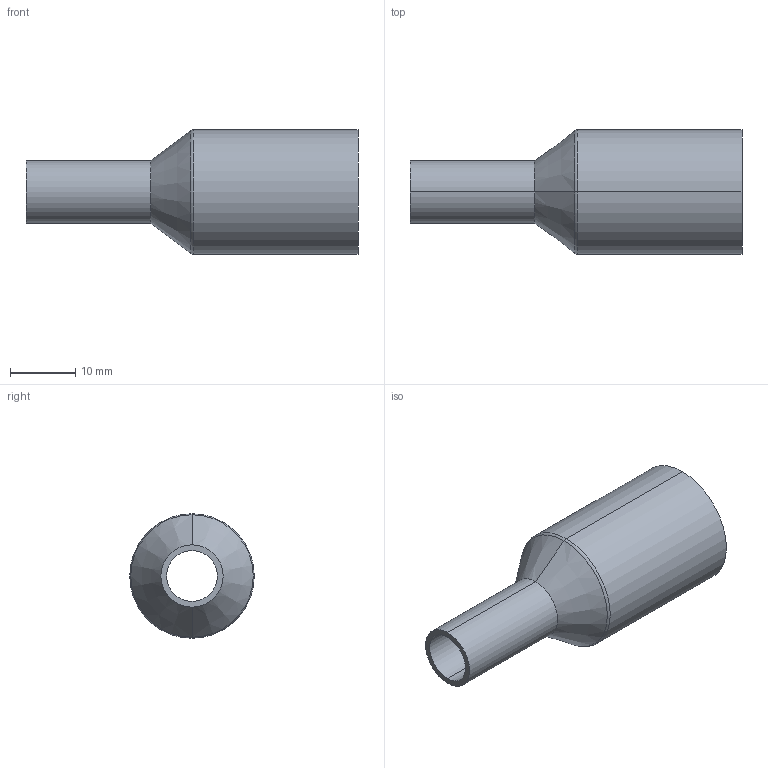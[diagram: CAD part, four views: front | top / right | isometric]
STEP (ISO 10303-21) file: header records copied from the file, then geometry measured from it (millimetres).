
FILE_DESCRIPTION (( 'STEP AP214' ), '1' );
FILE_NAME ('TE31SWW6L.75x.375-...STEP', '2016-05-29T09:54:03', ( 'eran' ), ( '' ), 'SwSTEP 2.0', 'SolidWorks 2016', '' );
FILE_SCHEMA (( 'AUTOMOTIVE_DESIGN' ));
Length unit declared in the file: millimetre
Products named in the file (1): TE31SWW6L.75x.375-..
Bounding box: 50.8 x 19.05 x 19.05 mm (x, y, z)
Volume: 5044.3 mm3; surface area: 4213.4 mm2
Topology: 1 solids, 1 shells, 18 faces, 36 edges, 20 vertices
Faces by surface type: cylinder 8, torus 4, cone 4, plane 2
Entity records: 506 total; most frequent: DIRECTION 98, CARTESIAN_POINT 75, ORIENTED_EDGE 72, AXIS2_PLACEMENT_3D 43, EDGE_CURVE 36, CIRCLE 24, VERTEX_POINT 20, EDGE_LOOP 20
